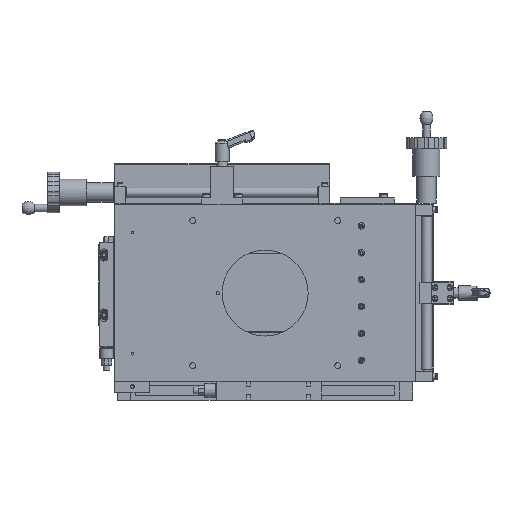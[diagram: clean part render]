
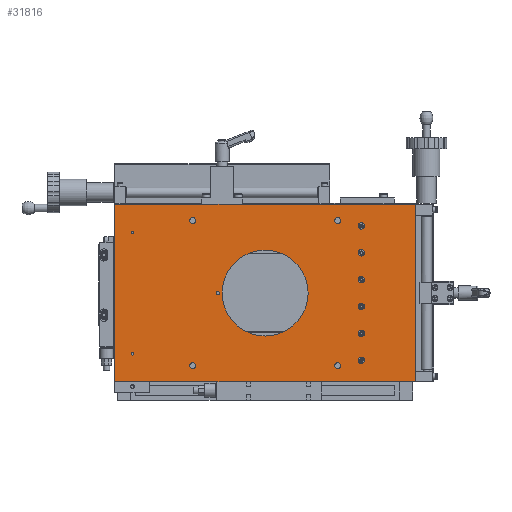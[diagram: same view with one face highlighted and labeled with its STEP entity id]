
A CAD part, front view. The second image highlights one B-rep face of the part: STEP entity #31816.
In plain terms, the highlighted planar face has unit normal (0, -1, 0).
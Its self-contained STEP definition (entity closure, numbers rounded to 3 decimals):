
#569=LINE('',#48220,#2612);
#592=LINE('',#48530,#2635);
#600=LINE('',#48544,#2643);
#624=LINE('',#48587,#2667);
#2612=VECTOR('',#38333,165.);
#2635=VECTOR('',#38700,280.);
#2643=VECTOR('',#38710,280.);
#2667=VECTOR('',#38750,165.);
#4591=PLANE('',#34263);
#6073=FACE_BOUND('',#9664,.T.);
#6074=FACE_BOUND('',#9665,.T.);
#6075=FACE_BOUND('',#9666,.T.);
#6076=FACE_BOUND('',#9667,.T.);
#6077=FACE_BOUND('',#9668,.T.);
#6078=FACE_BOUND('',#9669,.T.);
#6079=FACE_BOUND('',#9670,.T.);
#6080=FACE_BOUND('',#9671,.T.);
#6081=FACE_BOUND('',#9672,.T.);
#6082=FACE_BOUND('',#9673,.T.);
#6083=FACE_BOUND('',#9674,.T.);
#6084=FACE_BOUND('',#9675,.T.);
#6085=FACE_BOUND('',#9676,.T.);
#6086=FACE_BOUND('',#9677,.T.);
#7372=FACE_OUTER_BOUND('',#9663,.T.);
#9663=EDGE_LOOP('',(#21902,#21903,#21904,#21905));
#9664=EDGE_LOOP('',(#21906));
#9665=EDGE_LOOP('',(#21907));
#9666=EDGE_LOOP('',(#21908));
#9667=EDGE_LOOP('',(#21909));
#9668=EDGE_LOOP('',(#21910));
#9669=EDGE_LOOP('',(#21911));
#9670=EDGE_LOOP('',(#21912));
#9671=EDGE_LOOP('',(#21913));
#9672=EDGE_LOOP('',(#21914));
#9673=EDGE_LOOP('',(#21915));
#9674=EDGE_LOOP('',(#21916));
#9675=EDGE_LOOP('',(#21917));
#9676=EDGE_LOOP('',(#21918));
#9677=EDGE_LOOP('',(#21919));
#12666=CIRCLE('',#34092,1.23);
#12668=CIRCLE('',#34095,1.23);
#12687=CIRCLE('',#34131,3.);
#12691=CIRCLE('',#34138,3.);
#12695=CIRCLE('',#34145,3.);
#12699=CIRCLE('',#34152,3.);
#12703=CIRCLE('',#34159,3.);
#12727=CIRCLE('',#34206,3.);
#12736=CIRCLE('',#34223,2.75);
#12740=CIRCLE('',#34230,2.75);
#12744=CIRCLE('',#34237,2.75);
#12748=CIRCLE('',#34244,2.75);
#12749=CIRCLE('',#34246,1.5);
#12751=CIRCLE('',#34249,40.);
#14389=VERTEX_POINT('',#48217);
#14390=VERTEX_POINT('',#48219);
#14401=VERTEX_POINT('',#48245);
#14403=VERTEX_POINT('',#48250);
#14422=VERTEX_POINT('',#48305);
#14426=VERTEX_POINT('',#48316);
#14430=VERTEX_POINT('',#48327);
#14434=VERTEX_POINT('',#48338);
#14438=VERTEX_POINT('',#48349);
#14462=VERTEX_POINT('',#48420);
#14471=VERTEX_POINT('',#48446);
#14475=VERTEX_POINT('',#48457);
#14479=VERTEX_POINT('',#48468);
#14483=VERTEX_POINT('',#48479);
#14484=VERTEX_POINT('',#48482);
#14486=VERTEX_POINT('',#48487);
#14505=VERTEX_POINT('',#48528);
#14510=VERTEX_POINT('',#48543);
#17414=EDGE_CURVE('',#14390,#14389,#569,.T.);
#17426=EDGE_CURVE('',#14401,#14401,#12666,.T.);
#17428=EDGE_CURVE('',#14403,#14403,#12668,.T.);
#17447=EDGE_CURVE('',#14422,#14422,#12687,.T.);
#17451=EDGE_CURVE('',#14426,#14426,#12691,.T.);
#17455=EDGE_CURVE('',#14430,#14430,#12695,.T.);
#17459=EDGE_CURVE('',#14434,#14434,#12699,.T.);
#17463=EDGE_CURVE('',#14438,#14438,#12703,.T.);
#17487=EDGE_CURVE('',#14462,#14462,#12727,.T.);
#17496=EDGE_CURVE('',#14471,#14471,#12736,.T.);
#17500=EDGE_CURVE('',#14475,#14475,#12740,.T.);
#17504=EDGE_CURVE('',#14479,#14479,#12744,.T.);
#17508=EDGE_CURVE('',#14483,#14483,#12748,.T.);
#17509=EDGE_CURVE('',#14484,#14484,#12749,.T.);
#17511=EDGE_CURVE('',#14486,#14486,#12751,.T.);
#17531=EDGE_CURVE('',#14389,#14505,#592,.T.);
#17539=EDGE_CURVE('',#14510,#14390,#600,.T.);
#17563=EDGE_CURVE('',#14510,#14505,#624,.T.);
#21902=ORIENTED_EDGE('',*,*,#17531,.T.);
#21903=ORIENTED_EDGE('',*,*,#17563,.F.);
#21904=ORIENTED_EDGE('',*,*,#17539,.T.);
#21905=ORIENTED_EDGE('',*,*,#17414,.T.);
#21906=ORIENTED_EDGE('',*,*,#17426,.T.);
#21907=ORIENTED_EDGE('',*,*,#17428,.T.);
#21908=ORIENTED_EDGE('',*,*,#17447,.T.);
#21909=ORIENTED_EDGE('',*,*,#17451,.T.);
#21910=ORIENTED_EDGE('',*,*,#17455,.T.);
#21911=ORIENTED_EDGE('',*,*,#17459,.T.);
#21912=ORIENTED_EDGE('',*,*,#17463,.T.);
#21913=ORIENTED_EDGE('',*,*,#17487,.T.);
#21914=ORIENTED_EDGE('',*,*,#17496,.T.);
#21915=ORIENTED_EDGE('',*,*,#17500,.T.);
#21916=ORIENTED_EDGE('',*,*,#17504,.T.);
#21917=ORIENTED_EDGE('',*,*,#17508,.T.);
#21918=ORIENTED_EDGE('',*,*,#17509,.T.);
#21919=ORIENTED_EDGE('',*,*,#17511,.T.);
#31816=ADVANCED_FACE('',(#7372,#6073,#6074,#6075,#6076,#6077,#6078,#6079,
#6080,#6081,#6082,#6083,#6084,#6085,#6086),#4591,.T.);
#34092=AXIS2_PLACEMENT_3D('',#48246,#38358,#38359);
#34095=AXIS2_PLACEMENT_3D('',#48251,#38364,#38365);
#34131=AXIS2_PLACEMENT_3D('',#48306,#38436,#38437);
#34138=AXIS2_PLACEMENT_3D('',#48317,#38450,#38451);
#34145=AXIS2_PLACEMENT_3D('',#48328,#38464,#38465);
#34152=AXIS2_PLACEMENT_3D('',#48339,#38478,#38479);
#34159=AXIS2_PLACEMENT_3D('',#48350,#38492,#38493);
#34206=AXIS2_PLACEMENT_3D('',#48421,#38586,#38587);
#34223=AXIS2_PLACEMENT_3D('',#48447,#38620,#38621);
#34230=AXIS2_PLACEMENT_3D('',#48458,#38634,#38635);
#34237=AXIS2_PLACEMENT_3D('',#48469,#38648,#38649);
#34244=AXIS2_PLACEMENT_3D('',#48480,#38662,#38663);
#34246=AXIS2_PLACEMENT_3D('',#48483,#38666,#38667);
#34249=AXIS2_PLACEMENT_3D('',#48488,#38672,#38673);
#34263=AXIS2_PLACEMENT_3D('',#48588,#38751,#38752);
#38333=DIRECTION('',(0.,0.,1.));
#38358=DIRECTION('center_axis',(0.,1.,0.));
#38359=DIRECTION('ref_axis',(1.,0.,0.));
#38364=DIRECTION('center_axis',(0.,1.,0.));
#38365=DIRECTION('ref_axis',(1.,0.,0.));
#38436=DIRECTION('center_axis',(0.,1.,0.));
#38437=DIRECTION('ref_axis',(1.,0.,0.));
#38450=DIRECTION('center_axis',(0.,1.,0.));
#38451=DIRECTION('ref_axis',(1.,0.,0.));
#38464=DIRECTION('center_axis',(0.,1.,0.));
#38465=DIRECTION('ref_axis',(1.,0.,0.));
#38478=DIRECTION('center_axis',(0.,1.,0.));
#38479=DIRECTION('ref_axis',(1.,0.,0.));
#38492=DIRECTION('center_axis',(0.,1.,0.));
#38493=DIRECTION('ref_axis',(1.,0.,0.));
#38586=DIRECTION('center_axis',(0.,1.,0.));
#38587=DIRECTION('ref_axis',(1.,0.,0.));
#38620=DIRECTION('center_axis',(0.,1.,0.));
#38621=DIRECTION('ref_axis',(1.,0.,0.));
#38634=DIRECTION('center_axis',(0.,1.,0.));
#38635=DIRECTION('ref_axis',(1.,0.,0.));
#38648=DIRECTION('center_axis',(0.,1.,0.));
#38649=DIRECTION('ref_axis',(1.,0.,0.));
#38662=DIRECTION('center_axis',(0.,1.,0.));
#38663=DIRECTION('ref_axis',(1.,0.,0.));
#38666=DIRECTION('center_axis',(0.,1.,0.));
#38667=DIRECTION('ref_axis',(-1.,0.,0.));
#38672=DIRECTION('center_axis',(0.,1.,0.));
#38673=DIRECTION('ref_axis',(-1.,0.,0.));
#38700=DIRECTION('',(-1.,0.,0.));
#38710=DIRECTION('',(1.,0.,0.));
#38750=DIRECTION('',(0.,0.,1.));
#38751=DIRECTION('center_axis',(0.,-1.,0.));
#38752=DIRECTION('ref_axis',(0.,0.,-1.));
#48217=CARTESIAN_POINT('',(244.317,-20.877,165.));
#48219=CARTESIAN_POINT('',(244.317,-20.877,0.));
#48220=CARTESIAN_POINT('',(244.317,-20.877,0.));
#48245=CARTESIAN_POINT('',(-20.313,-20.877,26.));
#48246=CARTESIAN_POINT('Origin',(-19.083,-20.877,26.));
#48250=CARTESIAN_POINT('',(-20.313,-20.877,139.));
#48251=CARTESIAN_POINT('Origin',(-19.083,-20.877,139.));
#48305=CARTESIAN_POINT('',(196.817,-20.877,45.));
#48306=CARTESIAN_POINT('Origin',(193.817,-20.877,45.));
#48316=CARTESIAN_POINT('',(196.817,-20.877,70.));
#48317=CARTESIAN_POINT('Origin',(193.817,-20.877,70.));
#48327=CARTESIAN_POINT('',(196.817,-20.877,95.));
#48328=CARTESIAN_POINT('Origin',(193.817,-20.877,95.));
#48338=CARTESIAN_POINT('',(196.817,-20.877,120.));
#48339=CARTESIAN_POINT('Origin',(193.817,-20.877,120.));
#48349=CARTESIAN_POINT('',(196.817,-20.877,20.));
#48350=CARTESIAN_POINT('Origin',(193.817,-20.877,20.));
#48420=CARTESIAN_POINT('',(196.817,-20.877,145.));
#48421=CARTESIAN_POINT('Origin',(193.817,-20.877,145.));
#48446=CARTESIAN_POINT('',(169.067,-20.877,150.));
#48447=CARTESIAN_POINT('Origin',(171.817,-20.877,150.));
#48457=CARTESIAN_POINT('',(34.067,-20.877,15.));
#48458=CARTESIAN_POINT('Origin',(36.817,-20.877,15.));
#48468=CARTESIAN_POINT('',(34.067,-20.877,150.));
#48469=CARTESIAN_POINT('Origin',(36.817,-20.877,150.));
#48479=CARTESIAN_POINT('',(169.067,-20.877,15.));
#48480=CARTESIAN_POINT('Origin',(171.817,-20.877,15.));
#48482=CARTESIAN_POINT('',(61.817,-20.877,82.5));
#48483=CARTESIAN_POINT('Origin',(60.317,-20.877,82.5));
#48487=CARTESIAN_POINT('',(144.317,-20.877,82.5));
#48488=CARTESIAN_POINT('Origin',(104.317,-20.877,82.5));
#48528=CARTESIAN_POINT('',(-35.683,-20.877,165.));
#48530=CARTESIAN_POINT('',(-35.683,-20.877,165.));
#48543=CARTESIAN_POINT('',(-35.683,-20.877,0.));
#48544=CARTESIAN_POINT('',(-35.683,-20.877,0.));
#48587=CARTESIAN_POINT('',(-35.683,-20.877,0.));
#48588=CARTESIAN_POINT('Origin',(104.317,-20.877,0.));
